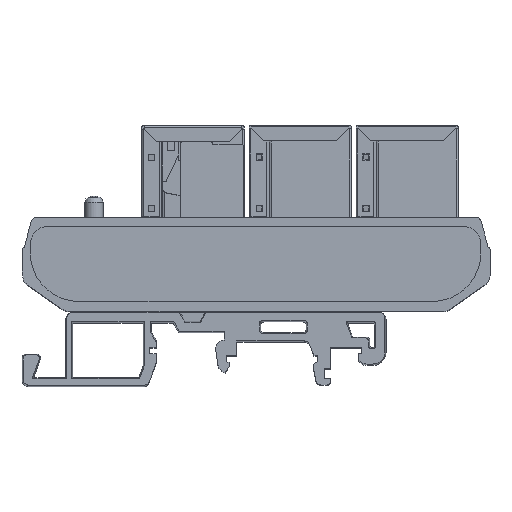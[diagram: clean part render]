
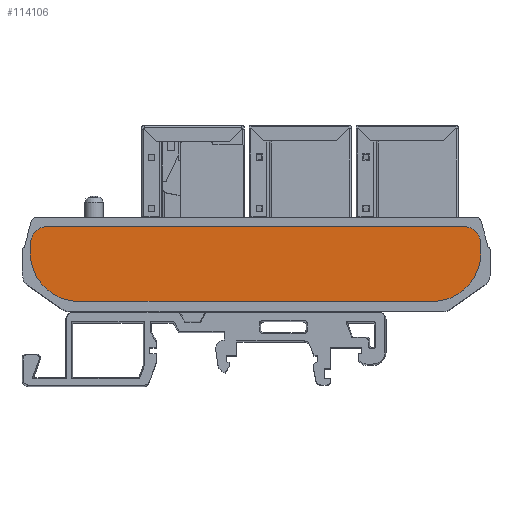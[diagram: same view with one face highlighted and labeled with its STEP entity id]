
A CAD part, top view. The second image highlights one B-rep face of the part: STEP entity #114106.
In plain terms, the highlighted planar face has unit normal (0, 0, 1).
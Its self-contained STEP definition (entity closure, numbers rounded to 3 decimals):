
#7652=FACE_OUTER_BOUND('',#13572,.T.);
#13572=EDGE_LOOP('',(#98943,#98944,#98945,#98946,#98947,#98948,#98949,#98950));
#15811=CIRCLE('',#121689,3.);
#15812=CIRCLE('',#121690,3.);
#15813=CIRCLE('',#121691,8.);
#15814=CIRCLE('',#121692,8.);
#28818=LINE('',#188264,#41877);
#28819=LINE('',#188268,#41878);
#28820=LINE('',#188272,#41879);
#28821=LINE('',#188275,#41880);
#41877=VECTOR('',#149733,10.);
#41878=VECTOR('',#149736,10.);
#41879=VECTOR('',#149739,10.);
#41880=VECTOR('',#149742,10.);
#51961=VERTEX_POINT('',#188260);
#51962=VERTEX_POINT('',#188261);
#51963=VERTEX_POINT('',#188263);
#51964=VERTEX_POINT('',#188265);
#51965=VERTEX_POINT('',#188267);
#51966=VERTEX_POINT('',#188269);
#51967=VERTEX_POINT('',#188271);
#51968=VERTEX_POINT('',#188273);
#67647=EDGE_CURVE('',#51961,#51962,#15811,.T.);
#67648=EDGE_CURVE('',#51963,#51961,#28818,.T.);
#67649=EDGE_CURVE('',#51964,#51963,#15812,.T.);
#67650=EDGE_CURVE('',#51965,#51964,#28819,.T.);
#67651=EDGE_CURVE('',#51966,#51965,#15813,.T.);
#67652=EDGE_CURVE('',#51967,#51966,#28820,.T.);
#67653=EDGE_CURVE('',#51968,#51967,#15814,.T.);
#67654=EDGE_CURVE('',#51962,#51968,#28821,.T.);
#98943=ORIENTED_EDGE('',*,*,#67647,.F.);
#98944=ORIENTED_EDGE('',*,*,#67648,.F.);
#98945=ORIENTED_EDGE('',*,*,#67649,.F.);
#98946=ORIENTED_EDGE('',*,*,#67650,.F.);
#98947=ORIENTED_EDGE('',*,*,#67651,.F.);
#98948=ORIENTED_EDGE('',*,*,#67652,.F.);
#98949=ORIENTED_EDGE('',*,*,#67653,.F.);
#98950=ORIENTED_EDGE('',*,*,#67654,.F.);
#103417=PLANE('',#121688);
#114106=ADVANCED_FACE('',(#7652),#103417,.F.);
#121688=AXIS2_PLACEMENT_3D('',#188259,#149729,#149730);
#121689=AXIS2_PLACEMENT_3D('',#188262,#149731,#149732);
#121690=AXIS2_PLACEMENT_3D('',#188266,#149734,#149735);
#121691=AXIS2_PLACEMENT_3D('',#188270,#149737,#149738);
#121692=AXIS2_PLACEMENT_3D('',#188274,#149740,#149741);
#149729=DIRECTION('center_axis',(0.,0.,
-1.));
#149730=DIRECTION('ref_axis',(-1.,0.,0.));
#149731=DIRECTION('center_axis',(0.,0.,
-1.));
#149732=DIRECTION('ref_axis',(0.707,0.707,0.));
#149733=DIRECTION('',(1.,0.,0.));
#149734=DIRECTION('center_axis',(0.,0.,
-1.));
#149735=DIRECTION('ref_axis',(-0.707,0.707,0.));
#149736=DIRECTION('',(0.,1.,0.));
#149737=DIRECTION('center_axis',(0.,0.,
-1.));
#149738=DIRECTION('ref_axis',(-0.707,-0.707,0.));
#149739=DIRECTION('',(-1.,0.,0.));
#149740=DIRECTION('center_axis',(0.,0.,
-1.));
#149741=DIRECTION('ref_axis',(0.707,-0.707,0.));
#149742=DIRECTION('',(0.,-1.,0.));
#188259=CARTESIAN_POINT('Origin',(0.,13.8,
42.95));
#188260=CARTESIAN_POINT('',(34.1,20.,42.95));
#188261=CARTESIAN_POINT('',(37.1,17.,42.95));
#188262=CARTESIAN_POINT('Origin',(34.1,17.,42.95));
#188263=CARTESIAN_POINT('',(-34.1,20.,42.95));
#188264=CARTESIAN_POINT('',(-37.1,20.,42.95));
#188265=CARTESIAN_POINT('',(-37.1,17.,42.95));
#188266=CARTESIAN_POINT('Origin',(-34.1,17.,42.95));
#188267=CARTESIAN_POINT('',(-37.1,15.6,42.95));
#188268=CARTESIAN_POINT('',(-37.1,7.6,42.95));
#188269=CARTESIAN_POINT('',(-29.1,7.6,42.95));
#188270=CARTESIAN_POINT('Origin',(-29.1,15.6,42.95));
#188271=CARTESIAN_POINT('',(29.1,7.6,42.95));
#188272=CARTESIAN_POINT('',(37.1,7.6,42.95));
#188273=CARTESIAN_POINT('',(37.1,15.6,42.95));
#188274=CARTESIAN_POINT('Origin',(29.1,15.6,42.95));
#188275=CARTESIAN_POINT('',(37.1,20.,42.95));
